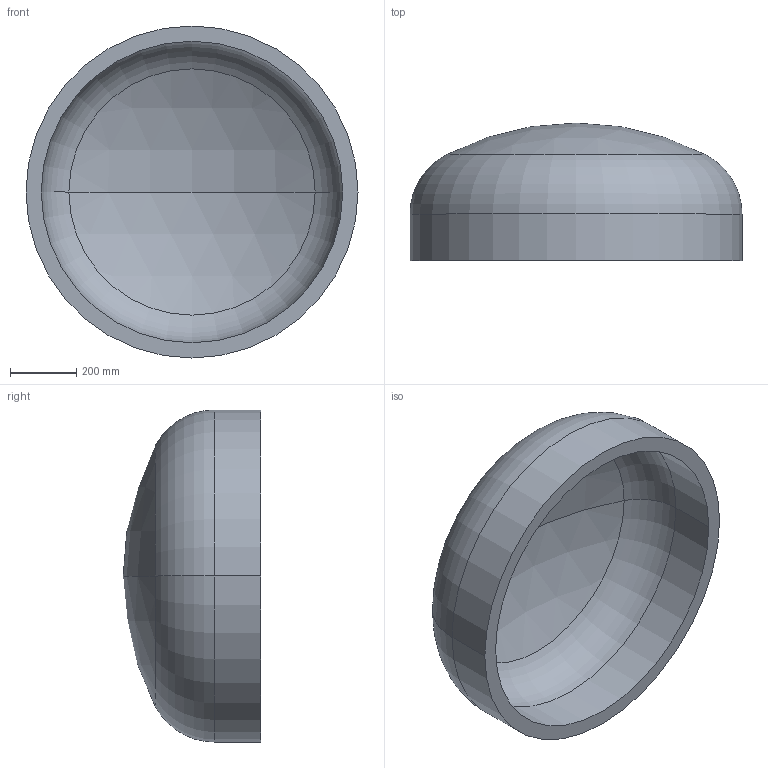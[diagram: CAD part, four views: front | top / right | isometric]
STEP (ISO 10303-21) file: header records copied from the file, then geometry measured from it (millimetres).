
FILE_DESCRIPTION (( 'STEP AP203' ), '1' );
FILE_NAME ('DIN 28013 Korbbogenform_-_Boden DIN 28013 - 1000 x 140 - I - s=46.step', '2016-07-01T08:49:55', ( '' ), ( '' ), 'SwSTEP 2.0', 'SolidWorks 2013', '' );
FILE_SCHEMA (( 'CONFIG_CONTROL_DESIGN' ));
Length unit declared in the file: millimetre
Products named in the file (1): DIN 28013 Korbbogenform_-_Boden DIN 28013 - 1000 x 140 - I - s=46
Bounding box: 1000 x 414.49 x 1000 mm (x, y, z)
Volume: 66519621.6 mm3; surface area: 3034454.2 mm2
Topology: 1 solids, 1 shells, 13 faces, 24 edges, 14 vertices
Faces by surface type: torus 4, cylinder 4, sphere 4, plane 1
Entity records: 407 total; most frequent: DIRECTION 72, CARTESIAN_POINT 52, ORIENTED_EDGE 48, AXIS2_PLACEMENT_3D 34, EDGE_CURVE 24, CIRCLE 20, VERTEX_POINT 14, EDGE_LOOP 14
